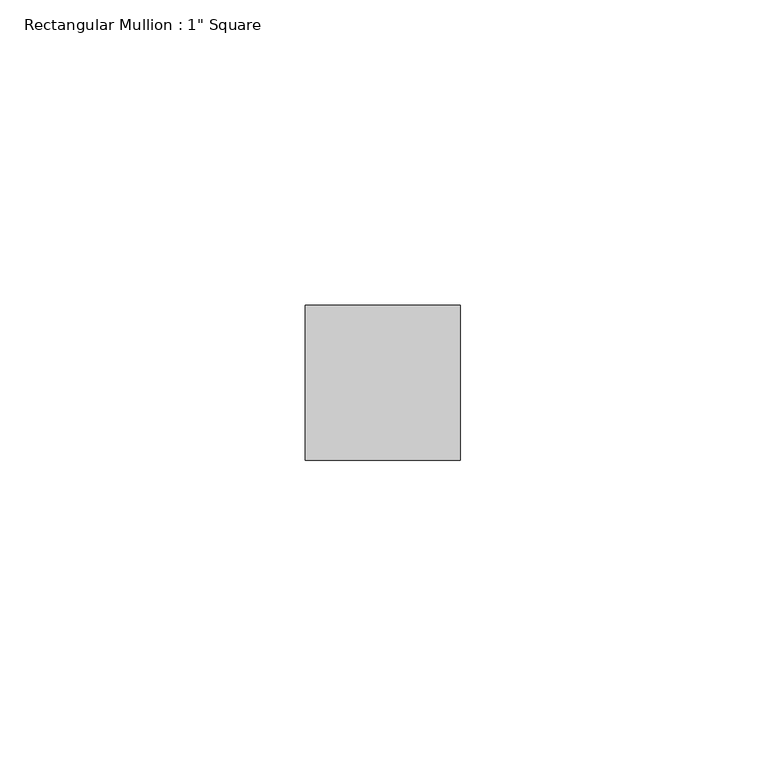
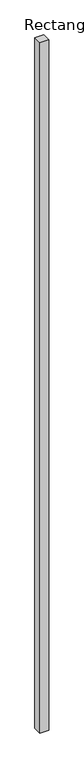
"""IFC4 building model written with IfcOpenShell, lengths in millimetres: member geometry."""

from ifc_helpers import new_model, si_unit, frame, origin, place, context, project, spatial, polyline, outline, extrude, source, transform, mapped, element, save


def member_6952dcc5(model_context):
    return source(origin(), model_context, "Body", "SweptSolid", [
        extrude(outline(polyline([(0.0, 12.7), (0.0, -12.7), (-25.4, -12.7), (-25.4, 12.7), (0.0, 12.7)])), frame((0.0, 0.0, -2129.8614691), z_axis=(0.0, 0.0, 1.0), x_axis=(1.0, 0.0, 0.0)), (0.0, 0.0, 1.0), 2129.8614691),
    ])


if __name__ == "__main__":
    model = new_model("IFC4")
    model_context = context("Model", 3, world=origin())
    ifc_project = project(units=[si_unit("LENGTHUNIT", "METRE", prefix="MILLI")], contexts=[model_context])
    site = spatial("IfcSite", under=ifc_project)
    building = spatial("IfcBuilding", under=site)
    placement = place(None, origin())
    member_shape = member_6952dcc5(model_context)
    element("IfcMember", 1, ObjectType="Rectangular Mullion : 1\" Square", at=placement, inside=building, context=model_context, shape_type="MappedRepresentation", body=[
        mapped(member_shape, transform((0.0, 0.0, 0.0), x_axis=(1.0, 0.0, 0.0), y_axis=(0.0, 1.0, 0.0), z_axis=(0.0, 0.0, 1.0))),
    ])
    save(model, "model.ifc")
